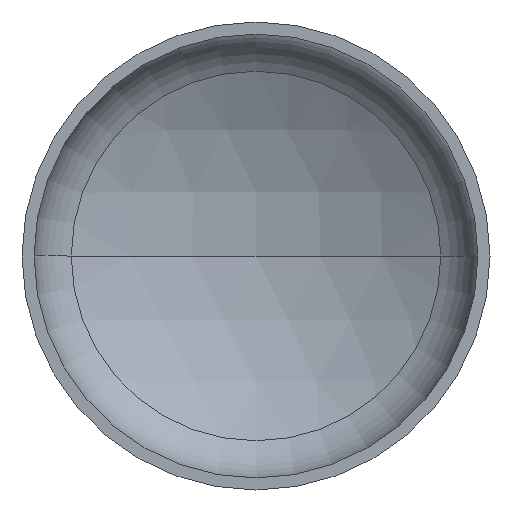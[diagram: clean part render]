
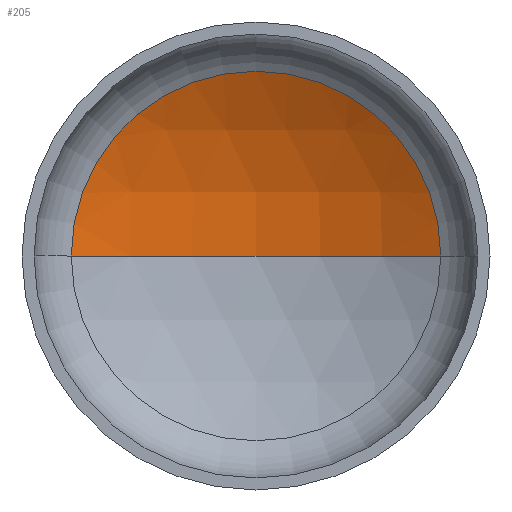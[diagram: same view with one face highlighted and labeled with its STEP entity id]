
A CAD part, front view. The second image highlights one B-rep face of the part: STEP entity #205.
In plain terms, the highlighted spherical face has radius 560 mm.
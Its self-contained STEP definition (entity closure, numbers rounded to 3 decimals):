
#6 = EDGE_LOOP ( 'NONE', ( #70, #45, #9 ) ) ;
#9 = ORIENTED_EDGE ( 'NONE', *, *, #342, .T. ) ;
#28 = DIRECTION ( 'NONE',  ( 0., 0., -1. ) ) ;
#38 = AXIS2_PLACEMENT_3D ( 'NONE', #266, #28, #213 ) ;
#45 = ORIENTED_EDGE ( 'NONE', *, *, #351, .T. ) ;
#47 = AXIS2_PLACEMENT_3D ( 'NONE', #177, #179, #219 ) ;
#58 = VERTEX_POINT ( 'NONE', #254 ) ;
#70 = ORIENTED_EDGE ( 'NONE', *, *, #391, .F. ) ;
#71 = AXIS2_PLACEMENT_3D ( 'NONE', #217, #127, #338 ) ;
#119 = VERTEX_POINT ( 'NONE', #241 ) ;
#120 = VERTEX_POINT ( 'NONE', #332 ) ;
#127 = DIRECTION ( 'NONE',  ( 0., 0., -1. ) ) ;
#151 = CIRCLE ( 'NONE', #47, 276.267 ) ;
#177 = CARTESIAN_POINT ( 'NONE',  ( 0., 150.682, 0. ) ) ;
#179 = DIRECTION ( 'NONE',  ( 0., -1., 0. ) ) ;
#192 = CIRCLE ( 'NONE', #265, 560. ) ;
#205 = ADVANCED_FACE ( 'NONE', ( #367 ), #360, .F. ) ;
#213 = DIRECTION ( 'NONE',  ( -1., 0., 0. ) ) ;
#217 = CARTESIAN_POINT ( 'NONE',  ( 0., -336.428, 0. ) ) ;
#219 = DIRECTION ( 'NONE',  ( 1., 0., 0. ) ) ;
#221 = DIRECTION ( 'NONE',  ( 0., 0., 1. ) ) ;
#241 = CARTESIAN_POINT ( 'NONE',  ( 276.267, 150.682, 0. ) ) ;
#254 = CARTESIAN_POINT ( 'NONE',  ( -276.267, 150.682, 0. ) ) ;
#265 = AXIS2_PLACEMENT_3D ( 'NONE', #368, #221, #388 ) ;
#266 = CARTESIAN_POINT ( 'NONE',  ( 0., -336.428, 0. ) ) ;
#275 = CIRCLE ( 'NONE', #38, 560. ) ;
#332 = CARTESIAN_POINT ( 'NONE',  ( 0., 223.572, 0. ) ) ;
#338 = DIRECTION ( 'NONE',  ( -1., 0., 0. ) ) ;
#342 = EDGE_CURVE ( 'NONE', #119, #58, #151, .T. ) ;
#351 = EDGE_CURVE ( 'NONE', #120, #119, #275, .T. ) ;
#360 = SPHERICAL_SURFACE ( 'NONE', #71, 560. ) ;
#367 = FACE_OUTER_BOUND ( 'NONE', #6, .T. ) ;
#368 = CARTESIAN_POINT ( 'NONE',  ( 0., -336.428, 0. ) ) ;
#388 = DIRECTION ( 'NONE',  ( 1., 0., 0. ) ) ;
#391 = EDGE_CURVE ( 'NONE', #120, #58, #192, .T. ) ;
